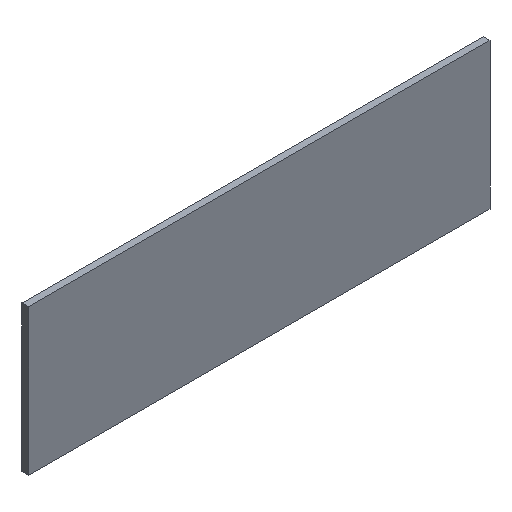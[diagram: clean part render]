
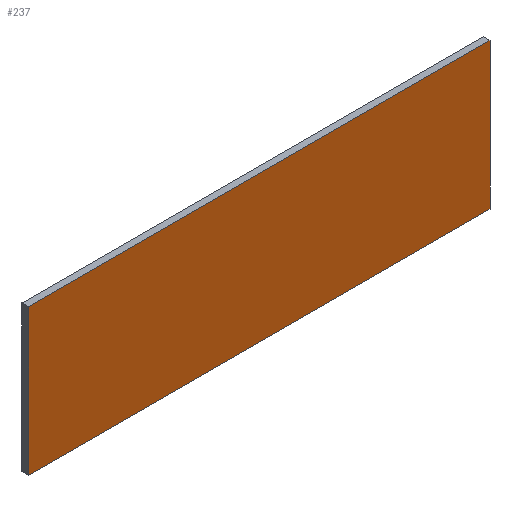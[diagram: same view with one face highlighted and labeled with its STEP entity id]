
A CAD part, isometric view. The second image highlights one B-rep face of the part: STEP entity #237.
In plain terms, the highlighted planar face has unit normal (0, -1, 0).
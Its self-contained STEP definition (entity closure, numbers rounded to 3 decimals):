
#21 = EDGE_CURVE('',#22,#24,#26,.T.);
#22 = VERTEX_POINT('',#23);
#23 = CARTESIAN_POINT('',(10.5,64.28,-15.8));
#24 = VERTEX_POINT('',#25);
#25 = CARTESIAN_POINT('',(10.5,64.28,-10.1));
#26 = SURFACE_CURVE('',#27,(#31,#43),.PCURVE_S1.);
#27 = LINE('',#28,#29);
#28 = CARTESIAN_POINT('',(10.5,64.28,-15.8));
#29 = VECTOR('',#30,1.);
#30 = DIRECTION('',(0.,0.,1.));
#31 = PCURVE('',#32,#37);
#32 = PLANE('',#33);
#33 = AXIS2_PLACEMENT_3D('',#34,#35,#36);
#34 = CARTESIAN_POINT('',(10.5,64.28,-15.8));
#35 = DIRECTION('',(1.,0.,-0.));
#36 = DIRECTION('',(0.,0.,1.));
#37 = DEFINITIONAL_REPRESENTATION('',(#38),#42);
#38 = LINE('',#39,#40);
#39 = CARTESIAN_POINT('',(0.,0.));
#40 = VECTOR('',#41,1.);
#41 = DIRECTION('',(1.,0.));
#42 = ( GEOMETRIC_REPRESENTATION_CONTEXT(2) 
PARAMETRIC_REPRESENTATION_CONTEXT() REPRESENTATION_CONTEXT('2D SPACE',''
  ) );
#43 = PCURVE('',#44,#49);
#44 = PLANE('',#45);
#45 = AXIS2_PLACEMENT_3D('',#46,#47,#48);
#46 = CARTESIAN_POINT('',(10.5,64.28,-15.8));
#47 = DIRECTION('',(-0.,1.,0.));
#48 = DIRECTION('',(0.,0.,1.));
#49 = DEFINITIONAL_REPRESENTATION('',(#50),#54);
#50 = LINE('',#51,#52);
#51 = CARTESIAN_POINT('',(0.,0.));
#52 = VECTOR('',#53,1.);
#53 = DIRECTION('',(1.,0.));
#54 = ( GEOMETRIC_REPRESENTATION_CONTEXT(2) 
PARAMETRIC_REPRESENTATION_CONTEXT() REPRESENTATION_CONTEXT('2D SPACE',''
  ) );
#72 = PLANE('',#73);
#73 = AXIS2_PLACEMENT_3D('',#74,#75,#76);
#74 = CARTESIAN_POINT('',(10.5,64.28,-15.8));
#75 = DIRECTION('',(0.,0.,1.));
#76 = DIRECTION('',(1.,0.,-0.));
#126 = PLANE('',#127);
#127 = AXIS2_PLACEMENT_3D('',#128,#129,#130);
#128 = CARTESIAN_POINT('',(10.5,64.28,-10.1));
#129 = DIRECTION('',(0.,0.,1.));
#130 = DIRECTION('',(1.,0.,-0.));
#141 = EDGE_CURVE('',#142,#144,#146,.T.);
#142 = VERTEX_POINT('',#143);
#143 = CARTESIAN_POINT('',(28.5,64.28,-15.8));
#144 = VERTEX_POINT('',#145);
#145 = CARTESIAN_POINT('',(28.5,64.28,-10.1));
#146 = SURFACE_CURVE('',#147,(#151,#163),.PCURVE_S1.);
#147 = LINE('',#148,#149);
#148 = CARTESIAN_POINT('',(28.5,64.28,-15.8));
#149 = VECTOR('',#150,1.);
#150 = DIRECTION('',(0.,0.,1.));
#151 = PCURVE('',#152,#157);
#152 = PLANE('',#153);
#153 = AXIS2_PLACEMENT_3D('',#154,#155,#156);
#154 = CARTESIAN_POINT('',(28.5,64.28,-15.8));
#155 = DIRECTION('',(1.,0.,-0.));
#156 = DIRECTION('',(0.,0.,1.));
#157 = DEFINITIONAL_REPRESENTATION('',(#158),#162);
#158 = LINE('',#159,#160);
#159 = CARTESIAN_POINT('',(0.,0.));
#160 = VECTOR('',#161,1.);
#161 = DIRECTION('',(1.,0.));
#162 = ( GEOMETRIC_REPRESENTATION_CONTEXT(2) 
PARAMETRIC_REPRESENTATION_CONTEXT() REPRESENTATION_CONTEXT('2D SPACE',''
  ) );
#163 = PCURVE('',#44,#164);
#164 = DEFINITIONAL_REPRESENTATION('',(#165),#169);
#165 = LINE('',#166,#167);
#166 = CARTESIAN_POINT('',(0.,18.));
#167 = VECTOR('',#168,1.);
#168 = DIRECTION('',(1.,0.));
#169 = ( GEOMETRIC_REPRESENTATION_CONTEXT(2) 
PARAMETRIC_REPRESENTATION_CONTEXT() REPRESENTATION_CONTEXT('2D SPACE',''
  ) );
#237 = ADVANCED_FACE('',(#238),#44,.F.);
#238 = FACE_BOUND('',#239,.F.);
#239 = EDGE_LOOP('',(#240,#261,#262,#283));
#240 = ORIENTED_EDGE('',*,*,#241,.F.);
#241 = EDGE_CURVE('',#22,#142,#242,.T.);
#242 = SURFACE_CURVE('',#243,(#247,#254),.PCURVE_S1.);
#243 = LINE('',#244,#245);
#244 = CARTESIAN_POINT('',(10.5,64.28,-15.8));
#245 = VECTOR('',#246,1.);
#246 = DIRECTION('',(1.,0.,-0.));
#247 = PCURVE('',#44,#248);
#248 = DEFINITIONAL_REPRESENTATION('',(#249),#253);
#249 = LINE('',#250,#251);
#250 = CARTESIAN_POINT('',(0.,0.));
#251 = VECTOR('',#252,1.);
#252 = DIRECTION('',(0.,1.));
#253 = ( GEOMETRIC_REPRESENTATION_CONTEXT(2) 
PARAMETRIC_REPRESENTATION_CONTEXT() REPRESENTATION_CONTEXT('2D SPACE',''
  ) );
#254 = PCURVE('',#72,#255);
#255 = DEFINITIONAL_REPRESENTATION('',(#256),#260);
#256 = LINE('',#257,#258);
#257 = CARTESIAN_POINT('',(0.,0.));
#258 = VECTOR('',#259,1.);
#259 = DIRECTION('',(1.,0.));
#260 = ( GEOMETRIC_REPRESENTATION_CONTEXT(2) 
PARAMETRIC_REPRESENTATION_CONTEXT() REPRESENTATION_CONTEXT('2D SPACE',''
  ) );
#261 = ORIENTED_EDGE('',*,*,#21,.T.);
#262 = ORIENTED_EDGE('',*,*,#263,.T.);
#263 = EDGE_CURVE('',#24,#144,#264,.T.);
#264 = SURFACE_CURVE('',#265,(#269,#276),.PCURVE_S1.);
#265 = LINE('',#266,#267);
#266 = CARTESIAN_POINT('',(10.5,64.28,-10.1));
#267 = VECTOR('',#268,1.);
#268 = DIRECTION('',(1.,0.,-0.));
#269 = PCURVE('',#44,#270);
#270 = DEFINITIONAL_REPRESENTATION('',(#271),#275);
#271 = LINE('',#272,#273);
#272 = CARTESIAN_POINT('',(5.7,0.));
#273 = VECTOR('',#274,1.);
#274 = DIRECTION('',(0.,1.));
#275 = ( GEOMETRIC_REPRESENTATION_CONTEXT(2) 
PARAMETRIC_REPRESENTATION_CONTEXT() REPRESENTATION_CONTEXT('2D SPACE',''
  ) );
#276 = PCURVE('',#126,#277);
#277 = DEFINITIONAL_REPRESENTATION('',(#278),#282);
#278 = LINE('',#279,#280);
#279 = CARTESIAN_POINT('',(0.,0.));
#280 = VECTOR('',#281,1.);
#281 = DIRECTION('',(1.,0.));
#282 = ( GEOMETRIC_REPRESENTATION_CONTEXT(2) 
PARAMETRIC_REPRESENTATION_CONTEXT() REPRESENTATION_CONTEXT('2D SPACE',''
  ) );
#283 = ORIENTED_EDGE('',*,*,#141,.F.);
